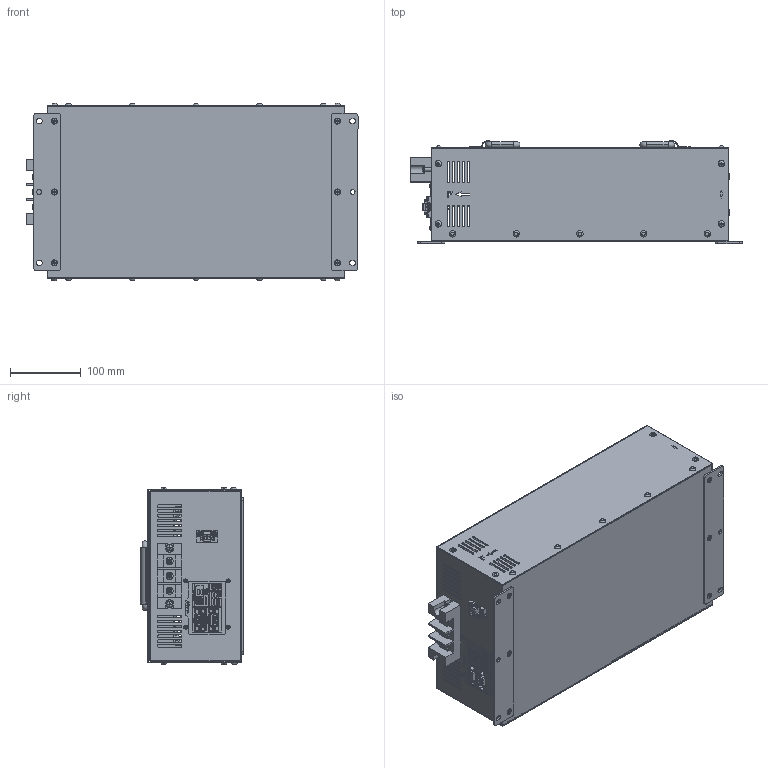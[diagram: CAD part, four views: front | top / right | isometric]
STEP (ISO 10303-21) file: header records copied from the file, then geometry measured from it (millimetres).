
FILE_DESCRIPTION(/* description */ (''),/* implementation_level */ '2;1');
FILE_NAME(/* name */ 'H:\04_배터리_전기종\고부하용 배터리 케이스_3D\[NEW] VX3COM HANDLE2 고객용\VX3COM_HANDLE2.stp',/* time_stamp */ '2025-07-02T11:03:26+09:00',/* author */ ('jjang'),/* organization */ (''),/* preprocessor_version */ 'ST-DEVELOPER v18.1',/* originating_system */ 'Autodesk Inventor 2021',/* authorisation */ '');
FILE_SCHEMA (('CONFIG_CONTROL_DESIGN'));
Products named in the file (1): VX3COM_2024.07.23_Shrinkwrap_1
Bounding box: 468 x 145.25 x 250.09 mm (x, y, z)
Volume: 748438.3 mm3; surface area: 928342.8 mm2
Topology: 9 solids, 9 shells, 4560 faces, 13619 edges, 9427 vertices
Faces by surface type: plane 2401, cylinder 1294, bspline 632, torus 145, cone 61, sphere 27
Full cylindrical faces by diameter (mm): 0.609 x1, 0.61 x27, 0.635 x9, 0.9 x6, 1.397 x9, 1.4 x1, 2.286 x9, 2.8 x8, 2.957 x4, 3 x2, 3.048 x4, 3.2 x4, 3.6 x10, 3.783 x2, 3.8 x8, 3.9 x2, 4 x31, 4.3 x12, 4.5 x16, 5 x17, 5.3 x20, 5.4 x2, 5.429 x2, 5.6 x4, 6 x2, 6.082 x1, 6.6 x2, 7.5 x6, 8 x1, 8.4 x12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
Entity records: 185719 total; most frequent: CARTESIAN_POINT 60433, ORIENTED_EDGE 27200, DIRECTION 22983, EDGE_CURVE 13600, VERTEX_POINT 9427, AXIS2_PLACEMENT_3D 7879, LINE 7225, VECTOR 7225
